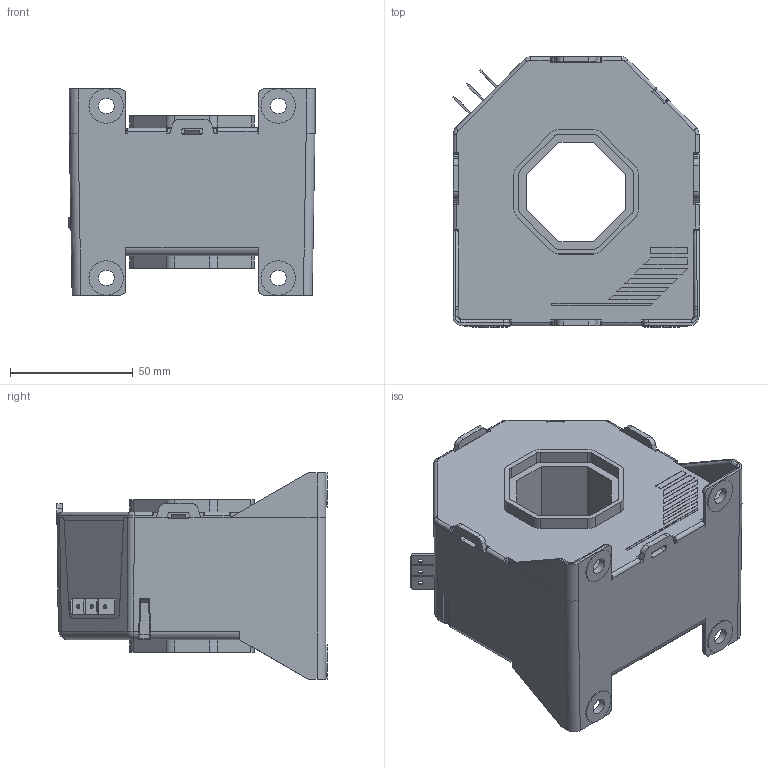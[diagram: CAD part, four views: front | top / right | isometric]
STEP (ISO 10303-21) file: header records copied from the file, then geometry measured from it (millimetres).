
FILE_DESCRIPTION(('CoCreate Modeling STEP Export'),'2;1');
FILE_NAME('LT 1005-S.stp','2012-01-23T15:41:57',(''),(''),'CoCreate Modeling STEP processor for AP214 (Solid Model)','CoCreate Modeling 17.0B 09-Oct-2010 (C) Parametric Technology GmbH','');
FILE_SCHEMA(('AUTOMOTIVE_DESIGN { 1 0 10303 214 1 1 1 1 }'));
Length unit declared in the file: millimetre
Products named in the file (2): LT_1005-S_BLACKBOX
Assembly tree (1 placements, depth 2):
  LT_1005-S_BLACKBOX
    LT_1005-S_BLACKBOX
Bounding box: 100.12 x 110 x 84 mm (x, y, z)
Volume: 453362 mm3; surface area: 70678.8 mm2
Topology: 1 solids, 10 shells, 1388 faces, 3847 edges, 2497 vertices
Faces by surface type: plane 981, cylinder 330, torus 43, bspline 24, sphere 6, cone 4
Entity records: 58442 total; most frequent: CARTESIAN_POINT 11346, ORIENTED_EDGE 7684, DIRECTION 7037, EDGE_CURVE 3841, VECTOR 3047, LINE 3047, VERTEX_POINT 2497, AXIS2_PLACEMENT_3D 1995
